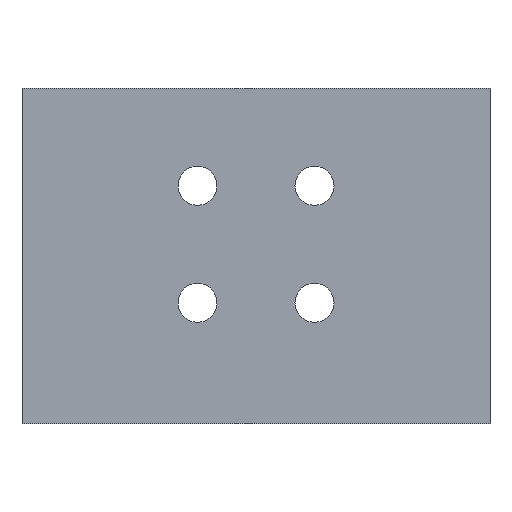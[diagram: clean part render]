
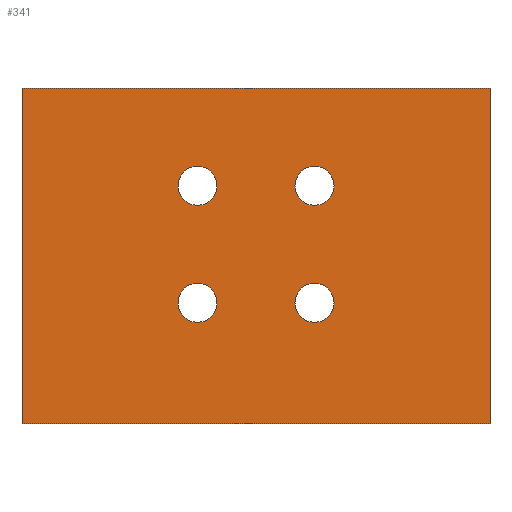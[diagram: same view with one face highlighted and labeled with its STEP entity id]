
A CAD part, top view. The second image highlights one B-rep face of the part: STEP entity #341.
In plain terms, the highlighted planar face has unit normal (0, 0, 1).
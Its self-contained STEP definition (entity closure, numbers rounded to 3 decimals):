
#74=DIRECTION('',(0.,-1.,0.));
#75=VECTOR('',#74,43.);
#76=CARTESIAN_POINT('',(-30.,21.5,4.));
#77=LINE('',#76,#75);
#78=DIRECTION('',(-1.,0.,0.));
#79=VECTOR('',#78,60.);
#80=CARTESIAN_POINT('',(30.,21.5,4.));
#81=LINE('',#80,#79);
#82=DIRECTION('',(0.,1.,0.));
#83=VECTOR('',#82,43.);
#84=CARTESIAN_POINT('',(30.,-21.5,4.));
#85=LINE('',#84,#83);
#86=DIRECTION('',(1.,0.,0.));
#87=VECTOR('',#86,60.);
#88=CARTESIAN_POINT('',(-30.,-21.5,4.));
#89=LINE('',#88,#87);
#90=CARTESIAN_POINT('',(-7.5,9.,4.));
#91=DIRECTION('',(0.,0.,-1.));
#92=DIRECTION('',(-1.,0.,0.));
#93=AXIS2_PLACEMENT_3D('',#90,#91,#92);
#95=CARTESIAN_POINT('',(-7.5,9.,4.));
#96=DIRECTION('',(0.,0.,-1.));
#97=DIRECTION('',(1.,0.,0.));
#98=AXIS2_PLACEMENT_3D('',#95,#96,#97);
#100=CARTESIAN_POINT('',(7.5,9.,4.));
#101=DIRECTION('',(0.,0.,-1.));
#102=DIRECTION('',(-1.,0.,0.));
#103=AXIS2_PLACEMENT_3D('',#100,#101,#102);
#105=CARTESIAN_POINT('',(7.5,9.,4.));
#106=DIRECTION('',(0.,0.,-1.));
#107=DIRECTION('',(1.,0.,0.));
#108=AXIS2_PLACEMENT_3D('',#105,#106,#107);
#110=CARTESIAN_POINT('',(-7.5,-6.,4.));
#111=DIRECTION('',(0.,0.,-1.));
#112=DIRECTION('',(-1.,0.,0.));
#113=AXIS2_PLACEMENT_3D('',#110,#111,#112);
#115=CARTESIAN_POINT('',(-7.5,-6.,4.));
#116=DIRECTION('',(0.,0.,-1.));
#117=DIRECTION('',(1.,0.,0.));
#118=AXIS2_PLACEMENT_3D('',#115,#116,#117);
#120=CARTESIAN_POINT('',(7.5,-6.,4.));
#121=DIRECTION('',(0.,0.,-1.));
#122=DIRECTION('',(-1.,0.,0.));
#123=AXIS2_PLACEMENT_3D('',#120,#121,#122);
#125=CARTESIAN_POINT('',(7.5,-6.,4.));
#126=DIRECTION('',(0.,0.,-1.));
#127=DIRECTION('',(1.,0.,0.));
#128=AXIS2_PLACEMENT_3D('',#125,#126,#127);
#170=CARTESIAN_POINT('',(-30.,21.5,4.));
#171=CARTESIAN_POINT('',(-30.,-21.5,4.));
#172=VERTEX_POINT('',#170);
#173=VERTEX_POINT('',#171);
#174=CARTESIAN_POINT('',(30.,-21.5,4.));
#175=VERTEX_POINT('',#174);
#176=CARTESIAN_POINT('',(30.,21.5,4.));
#177=VERTEX_POINT('',#176);
#182=CARTESIAN_POINT('',(-10.,9.,4.));
#183=CARTESIAN_POINT('',(-5.,9.,4.));
#184=VERTEX_POINT('',#182);
#185=VERTEX_POINT('',#183);
#190=CARTESIAN_POINT('',(5.,9.,4.));
#191=CARTESIAN_POINT('',(10.,9.,4.));
#192=VERTEX_POINT('',#190);
#193=VERTEX_POINT('',#191);
#198=CARTESIAN_POINT('',(-10.,-6.,4.));
#199=CARTESIAN_POINT('',(-5.,-6.,4.));
#200=VERTEX_POINT('',#198);
#201=VERTEX_POINT('',#199);
#206=CARTESIAN_POINT('',(5.,-6.,4.));
#207=CARTESIAN_POINT('',(10.,-6.,4.));
#208=VERTEX_POINT('',#206);
#209=VERTEX_POINT('',#207);
#306=CARTESIAN_POINT('',(0.,0.,4.));
#307=DIRECTION('',(0.,0.,1.));
#308=DIRECTION('',(1.,0.,0.));
#309=AXIS2_PLACEMENT_3D('',#306,#307,#308);
#310=PLANE('',#309);
#311=ORIENTED_EDGE('',*,*,#258,.F.);
#312=ORIENTED_EDGE('',*,*,#273,.F.);
#313=ORIENTED_EDGE('',*,*,#287,.F.);
#314=ORIENTED_EDGE('',*,*,#300,.F.);
#315=EDGE_LOOP('',(#311,#312,#313,#314));
#316=FACE_OUTER_BOUND('',#315,.F.);
#318=ORIENTED_EDGE('',*,*,#317,.F.);
#320=ORIENTED_EDGE('',*,*,#319,.F.);
#321=EDGE_LOOP('',(#318,#320));
#322=FACE_BOUND('',#321,.F.);
#324=ORIENTED_EDGE('',*,*,#323,.F.);
#326=ORIENTED_EDGE('',*,*,#325,.F.);
#327=EDGE_LOOP('',(#324,#326));
#328=FACE_BOUND('',#327,.F.);
#330=ORIENTED_EDGE('',*,*,#329,.F.);
#332=ORIENTED_EDGE('',*,*,#331,.F.);
#333=EDGE_LOOP('',(#330,#332));
#334=FACE_BOUND('',#333,.F.);
#336=ORIENTED_EDGE('',*,*,#335,.F.);
#338=ORIENTED_EDGE('',*,*,#337,.F.);
#339=EDGE_LOOP('',(#336,#338));
#340=FACE_BOUND('',#339,.F.);
#341=ADVANCED_FACE('',(#316,#322,#328,#334,#340),#310,.T.);
#94=CIRCLE('',#93,2.5);
#99=CIRCLE('',#98,2.5);
#104=CIRCLE('',#103,2.5);
#109=CIRCLE('',#108,2.5);
#114=CIRCLE('',#113,2.5);
#119=CIRCLE('',#118,2.5);
#124=CIRCLE('',#123,2.5);
#129=CIRCLE('',#128,2.5);
#258=EDGE_CURVE('',#172,#173,#77,.T.);
#273=EDGE_CURVE('',#177,#172,#81,.T.);
#287=EDGE_CURVE('',#175,#177,#85,.T.);
#300=EDGE_CURVE('',#173,#175,#89,.T.);
#317=EDGE_CURVE('',#184,#185,#94,.T.);
#319=EDGE_CURVE('',#185,#184,#99,.T.);
#323=EDGE_CURVE('',#192,#193,#104,.T.);
#325=EDGE_CURVE('',#193,#192,#109,.T.);
#329=EDGE_CURVE('',#200,#201,#114,.T.);
#331=EDGE_CURVE('',#201,#200,#119,.T.);
#335=EDGE_CURVE('',#208,#209,#124,.T.);
#337=EDGE_CURVE('',#209,#208,#129,.T.);
